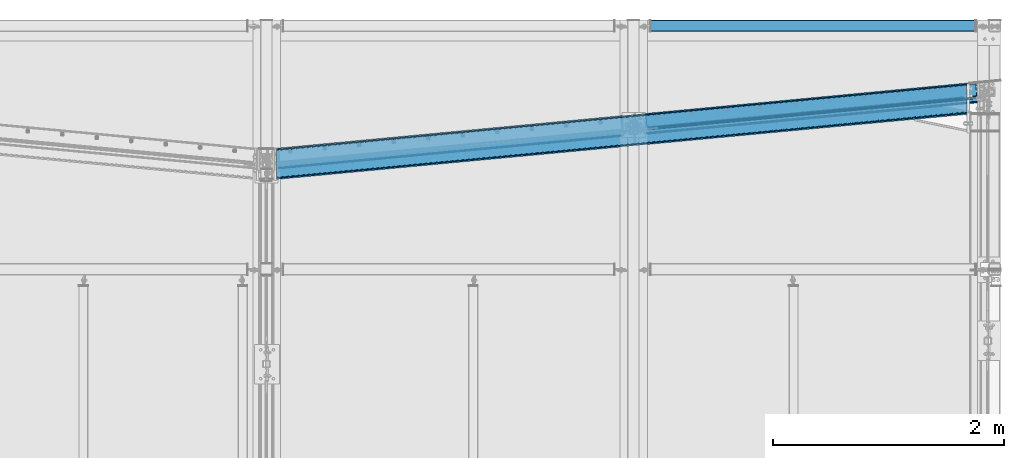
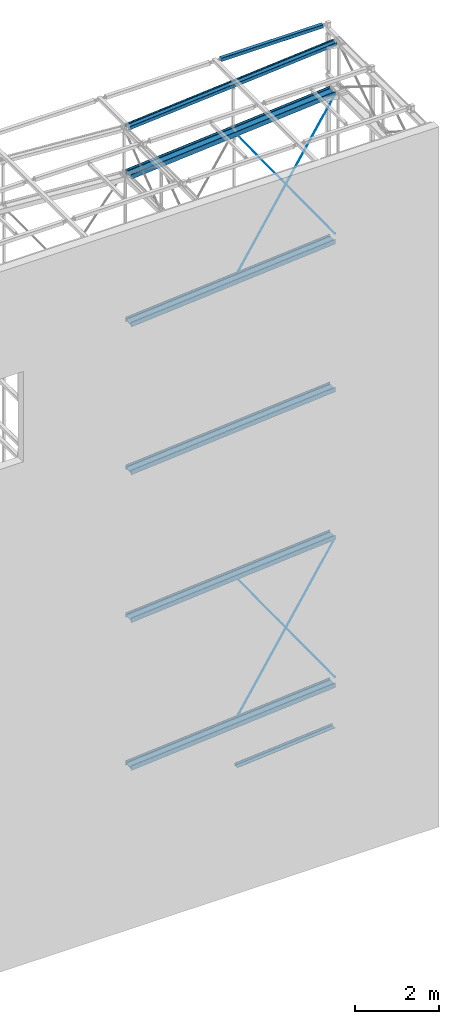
# One storey, part 54 of 271: 8 beams, 4 members, 12 elements without a shape of their own.
"""IFC2X3 building model written with IfcOpenShell, lengths in millimetres."""

from ifc_helpers import new_model, si_unit, frame, origin_with_axes, origin_2d_with_axis, place, context, subcontext, project, spatial, hollow_rectangle, circle, i_section, l_section, extrude, clip, halfspace, material, type_object, element, aggregate, save


model = new_model("IFC2X3")

# Units and contexts
model_context = context("Model", 3, precision=1e-05, world=origin_with_axes())
body_context = subcontext(model_context, "Body", "Model", "MODEL_VIEW")
ifc_project = project(units=[si_unit("LENGTHUNIT", "METRE", prefix="MILLI"), si_unit("AREAUNIT", "SQUARE_METRE"), si_unit("VOLUMEUNIT", "CUBIC_METRE"), si_unit("MASSUNIT", "GRAM", prefix="KILO"), si_unit("TIMEUNIT", "SECOND"), si_unit("PLANEANGLEUNIT", "RADIAN"), si_unit("SOLIDANGLEUNIT", "STERADIAN"), si_unit("THERMODYNAMICTEMPERATUREUNIT", "DEGREE_CELSIUS"), si_unit("LUMINOUSINTENSITYUNIT", "LUMEN")], contexts=[model_context])

# Site, building, storey
site_placement = place(None, origin_with_axes())
site = spatial("IfcSite", under=ifc_project, at=site_placement, Name="Undefined", CompositionType="ELEMENT")
building_placement = place(site_placement, origin_with_axes())
building = spatial("IfcBuilding", under=site, at=building_placement, Name="Undefined", CompositionType="ELEMENT")
storey_placement = place(building_placement, origin_with_axes())
storey = spatial("IfcBuildingStorey", under=building, at=storey_placement, Name="Undefined", CompositionType="ELEMENT", Elevation=0.0)

# Assembly, beam
assembly_1_placement = place(storey_placement, origin_with_axes())
assembly_1 = element("IfcElementAssembly", 1, at=assembly_1_placement, inside=storey, Name="BELKA", AssemblyPlace="NOTDEFINED", PredefinedType="RIGID_FRAME")
ifc_material = material(Name="STEEL/S355JR")
beam_type_1 = type_object("IfcBeamType", Name="L120*80*8", PredefinedType="NOTDEFINED")
beam_1_placement = place(assembly_1_placement, frame((12497.2255377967, 4360.72309871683, 24.8499999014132), z_axis=(0.0941925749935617, -0.995553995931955, 0.0), x_axis=(-0.995553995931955, -0.094192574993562, 0.0)))
beam_1 = element("IfcBeam", 2, at=beam_1_placement, type_object=beam_type_1, material=ifc_material, Name="BELKA", ObjectType="L120*80*8", context=body_context, shape_type="SweptSolid", body=[
    extrude(l_section(Depth=120.0, Width=80.0, Thickness=8.0, FilletRadius=11.0, EdgeRadius=5.5, at=origin_2d_with_axis()), frame((2869.96551881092, 0.0, 4.14918578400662e-13), z_axis=(-1.0, 0.0, 1.38777878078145e-17), x_axis=(0.0, -1.0, 0.0)), (0.0, 0.0, 1.0), 2869.97),
])
aggregate(assembly_1, [beam_1])

assembly_2_placement = place(storey_placement, origin_with_axes())
assembly_2 = element("IfcElementAssembly", 3, at=assembly_2_placement, inside=storey, AssemblyPlace="NOTDEFINED", PredefinedType="RIGID_FRAME")
beam_type_2 = type_object("IfcBeamType", Name="SHS100*3", PredefinedType="NOTDEFINED")
beam_2_placement = place(assembly_2_placement, frame((9528.37568709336, 4909.32498425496, 20154.3499999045), z_axis=(0.0, 1.0, 0.0), x_axis=(1.0, 0.0, 0.0)))
beam_2 = element("IfcBeam", 4, at=beam_2_placement, type_object=beam_type_2, material=ifc_material, Name="RYGIEL ATTYKOWY", ObjectType="SHS100*3", context=body_context, shape_type="Clipping", body=[
    clip(clip(extrude(hollow_rectangle(XDim=100.0, YDim=100.0, WallThickness=3.0, InnerFilletRadius=3.0, OuterFilletRadius=6.0, at=origin_2d_with_axis()), frame((3180.0, 0.0, 0.0), z_axis=(-1.0, 0.0, 1.38777878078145e-17), x_axis=(0.0, -1.0, 0.0)), (0.0, 0.0, 1.0), 3180.0), halfspace(frame((2962.0, 0.0, -15.0), z_axis=(-1.0, 0.0, 1.38777878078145e-17), x_axis=(0.0, 1.0, 0.0)), True)), halfspace(frame((148.000000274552, 0.0, -15.0), z_axis=(1.0, 0.0, 0.0), x_axis=(0.0, -1.0, 0.0)), True)),
])
aggregate(assembly_2, [beam_2])

# Assembly, member
assembly_3_placement = place(storey_placement, origin_with_axes())
assembly_3 = element("IfcElementAssembly", 5, at=assembly_3_placement, inside=storey, AssemblyPlace="NOTDEFINED", PredefinedType="RIGID_FRAME")
member_type = type_object("IfcMemberType", Name="D16", PredefinedType="NOTDEFINED")
member_1_placement = place(assembly_3_placement, frame((12573.751374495, 4292.19355050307, 18644.3499999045), z_axis=(-0.031225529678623, 0.998530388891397, -0.0442947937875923), x_axis=(-0.575326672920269, -0.0541946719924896, -0.816126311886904)))
member_1 = element("IfcMember", 6, at=member_1_placement, type_object=member_type, material=ifc_material, Name="STĘŻENIE", ObjectType="D16", context=body_context, shape_type="Clipping", body=[
    clip(clip(extrude(circle(Radius=8.0, at=origin_2d_with_axis()), frame((5293.29827722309, 2.27373675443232e-13, 0.0), z_axis=(-1.0, 0.0, 1.38777878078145e-17), x_axis=(0.0, -1.0, 0.0)), (0.0, 0.0, 1.0), 5293.3), halfspace(frame((5063.34097846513, -1.39695925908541, -18.1440461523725), z_axis=(-1.0, 0.0, 1.38777878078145e-17), x_axis=(-2.10693542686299e-10, 0.997049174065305, -0.076765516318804)), True)), halfspace(frame((149.375514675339, -1.03455022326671e-10, -4.99999939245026), z_axis=(1.0, 0.0, 0.0), x_axis=(0.0, -1.0, 0.0)), True)),
])
aggregate(assembly_3, [member_1])

assembly_4_placement = place(storey_placement, origin_with_axes())
assembly_4 = element("IfcElementAssembly", 7, at=assembly_4_placement, inside=storey, AssemblyPlace="NOTDEFINED", PredefinedType="RIGID_FRAME")
member_2_placement = place(assembly_4_placement, frame((12573.751374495, 4292.19355050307, 14324.3499999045), z_axis=(-0.0312255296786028, 0.998530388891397, 0.0442947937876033), x_axis=(-0.575326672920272, -0.054194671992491, 0.816126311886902)))
member_2 = element("IfcMember", 8, at=member_2_placement, type_object=member_type, material=ifc_material, Name="STĘŻENIE", ObjectType="D16", context=body_context, shape_type="Clipping", body=[
    clip(clip(extrude(circle(Radius=8.0, at=origin_2d_with_axis()), frame((5293.29827722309, 2.27373675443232e-13, 0.0), z_axis=(-1.0, 0.0, 1.38777878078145e-17), x_axis=(0.0, -1.0, 0.0)), (0.0, 0.0, 1.0), 5293.3), halfspace(frame((5063.33957308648, 1.39581436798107, -18.1291760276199), z_axis=(-1.0, 0.0, 1.38777878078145e-17), x_axis=(2.10691723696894e-10, 0.997049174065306, 0.0767655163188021)), True)), halfspace(frame((149.375514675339, -1.03455022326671e-10, -4.99999939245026), z_axis=(1.0, 0.0, 0.0), x_axis=(0.0, -1.0, 0.0)), True)),
])
aggregate(assembly_4, [member_2])

assembly_5_placement = place(storey_placement, origin_with_axes())
assembly_5 = element("IfcElementAssembly", 9, at=assembly_5_placement, inside=storey, AssemblyPlace="NOTDEFINED", PredefinedType="RIGID_FRAME")
member_3_placement = place(assembly_5_placement, frame((12573.751374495, 4292.19355050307, 5684.34999990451), z_axis=(-0.031225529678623, 0.998530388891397, -0.0442947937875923), x_axis=(-0.575326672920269, -0.0541946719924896, -0.816126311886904)))
member_3 = element("IfcMember", 10, at=member_3_placement, type_object=member_type, material=ifc_material, Name="STĘŻENIE", ObjectType="D16", context=body_context, shape_type="Clipping", body=[
    clip(clip(extrude(circle(Radius=8.0, at=origin_2d_with_axis()), frame((5293.29827722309, 2.27373675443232e-13, 0.0), z_axis=(-1.0, 0.0, 1.38777878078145e-17), x_axis=(0.0, -1.0, 0.0)), (0.0, 0.0, 1.0), 5293.3), halfspace(frame((5063.34097846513, -1.39695925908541, -18.1440461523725), z_axis=(-1.0, 0.0, 1.38777878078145e-17), x_axis=(-2.10693542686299e-10, 0.997049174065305, -0.076765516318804)), True)), halfspace(frame((149.375514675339, -1.03455022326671e-10, -4.99999939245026), z_axis=(1.0, 0.0, 0.0), x_axis=(0.0, -1.0, 0.0)), True)),
])
aggregate(assembly_5, [member_3])

assembly_6_placement = place(storey_placement, origin_with_axes())
assembly_6 = element("IfcElementAssembly", 11, at=assembly_6_placement, inside=storey, AssemblyPlace="NOTDEFINED", PredefinedType="RIGID_FRAME")
member_4_placement = place(assembly_6_placement, frame((12573.751374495, 4292.19355050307, 1364.34999990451), z_axis=(-0.0312255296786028, 0.998530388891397, 0.0442947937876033), x_axis=(-0.575326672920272, -0.054194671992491, 0.816126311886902)))
member_4 = element("IfcMember", 12, at=member_4_placement, type_object=member_type, material=ifc_material, Name="STĘŻENIE", ObjectType="D16", context=body_context, shape_type="Clipping", body=[
    clip(clip(extrude(circle(Radius=8.0, at=origin_2d_with_axis()), frame((5293.29827722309, 2.27373675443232e-13, 0.0), z_axis=(-1.0, 0.0, 1.38777878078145e-17), x_axis=(0.0, -1.0, 0.0)), (0.0, 0.0, 1.0), 5293.3), halfspace(frame((5063.33957308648, 1.39581436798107, -18.1291760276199), z_axis=(-1.0, 0.0, 1.38777878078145e-17), x_axis=(2.10691723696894e-10, 0.997049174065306, 0.0767655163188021)), True)), halfspace(frame((149.375514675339, -1.03455022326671e-10, -4.99999939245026), z_axis=(1.0, 0.0, 0.0), x_axis=(0.0, -1.0, 0.0)), True)),
])
aggregate(assembly_6, [member_4])

# Assembly, beam
assembly_7_placement = place(storey_placement, origin_with_axes())
assembly_7 = element("IfcElementAssembly", 13, at=assembly_7_placement, inside=storey, AssemblyPlace="NOTDEFINED", PredefinedType="RIGID_FRAME")
beam_type_3 = type_object("IfcBeamType", Name="IPE180", PredefinedType="NOTDEFINED")
beam_3_placement = place(assembly_7_placement, frame((12691.4696200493, 4348.52929474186, 20004.3499999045), z_axis=(-0.093922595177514, 0.99557950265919, 7.84095011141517e-15), x_axis=(-0.995579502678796, -0.0939225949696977, 0.0)))
beam_3 = element("IfcBeam", 14, at=beam_3_placement, type_object=beam_type_3, material=ifc_material, Name="RYGIEL", ObjectType="IPE180", context=body_context, shape_type="Clipping", body=[
    clip(clip(extrude(i_section(OverallWidth=91.0, OverallDepth=180.0, WebThickness=5.300000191, FlangeThickness=8.0, FilletRadius=9.0, at=origin_2d_with_axis()), frame((6388.23919450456, 0.0, 0.0), z_axis=(-1.0, 0.0, 1.38777878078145e-17), x_axis=(0.0, -1.0, 0.0)), (0.0, 0.0, 1.0), 6388.24), halfspace(frame((6305.42005893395, 0.0, -90.0), z_axis=(-0.995579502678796, 0.0, -0.0939225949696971), x_axis=(0.0, 1.0, 0.0)), True)), halfspace(frame((189.384138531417, 0.0, -90.0000000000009), z_axis=(0.995579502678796, 0.0, 0.0939225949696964), x_axis=(0.0, -1.0, 0.0)), True)),
])
aggregate(assembly_7, [beam_3])

assembly_8_placement = place(storey_placement, origin_with_axes())
assembly_8 = element("IfcElementAssembly", 15, at=assembly_8_placement, inside=storey, AssemblyPlace="NOTDEFINED", PredefinedType="RIGID_FRAME")
beam_type_4 = type_object("IfcBeamType", Name="IPE270", PredefinedType="NOTDEFINED")
beam_4_placement = place(assembly_8_placement, frame((12695.696136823, 4303.72821712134, 18644.3499999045), z_axis=(-0.093922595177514, 0.99557950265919, 7.84095011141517e-15), x_axis=(-0.995579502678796, -0.0939225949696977, 0.0)))
beam_4 = element("IfcBeam", 16, at=beam_4_placement, type_object=beam_type_4, material=ifc_material, Name="RYGIEL", ObjectType="IPE270", context=body_context, shape_type="Clipping", body=[
    clip(clip(extrude(i_section(OverallWidth=135.0, OverallDepth=270.0, WebThickness=6.599999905, FlangeThickness=10.19999981, FilletRadius=15.0, at=origin_2d_with_axis()), frame((6388.23919450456, 0.0, 0.0), z_axis=(-1.0, 0.0, 1.38777878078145e-17), x_axis=(0.0, -1.0, 0.0)), (0.0, 0.0, 1.0), 6388.24), halfspace(frame((6300.35068336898, -3.63797880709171e-12, -135.0), z_axis=(-0.995579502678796, 0.0, -0.0939225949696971), x_axis=(0.0, 1.0, 0.0)), True)), halfspace(frame((292.292076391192, -3.63797880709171e-12, -135.0), z_axis=(0.995579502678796, 0.0, 0.0939225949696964), x_axis=(0.0, -1.0, 0.0)), True)),
])
aggregate(assembly_8, [beam_4])

assembly_9_placement = place(storey_placement, origin_with_axes())
assembly_9 = element("IfcElementAssembly", 17, at=assembly_9_placement, inside=storey, AssemblyPlace="NOTDEFINED", PredefinedType="RIGID_FRAME")
beam_5_placement = place(assembly_9_placement, frame((12695.696136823, 4303.72821712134, 1364.34999990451), z_axis=(-0.093922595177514, 0.99557950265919, 7.84095011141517e-15), x_axis=(-0.995579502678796, -0.0939225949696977, 0.0)))
beam_5 = element("IfcBeam", 18, at=beam_5_placement, type_object=beam_type_4, material=ifc_material, Name="RYGIEL", ObjectType="IPE270", context=body_context, shape_type="Clipping", body=[
    clip(clip(extrude(i_section(OverallWidth=135.0, OverallDepth=270.0, WebThickness=6.599999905, FlangeThickness=10.19999981, FilletRadius=15.0, at=origin_2d_with_axis()), frame((6388.23919450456, 0.0, 0.0), z_axis=(-1.0, 0.0, 1.38777878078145e-17), x_axis=(0.0, -1.0, 0.0)), (0.0, 0.0, 1.0), 6388.24), halfspace(frame((6300.35068336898, -3.63797880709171e-12, -135.0), z_axis=(-0.995579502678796, 0.0, -0.0939225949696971), x_axis=(0.0, 1.0, 0.0)), True)), halfspace(frame((292.292076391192, -3.63797880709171e-12, -135.0), z_axis=(0.995579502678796, 0.0, 0.0939225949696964), x_axis=(0.0, -1.0, 0.0)), True)),
])
aggregate(assembly_9, [beam_5])

assembly_10_placement = place(storey_placement, origin_with_axes())
assembly_10 = element("IfcElementAssembly", 19, at=assembly_10_placement, inside=storey, AssemblyPlace="NOTDEFINED", PredefinedType="RIGID_FRAME")
beam_6_placement = place(assembly_10_placement, frame((12695.696136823, 4303.72821712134, 5684.34999990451), z_axis=(-0.093922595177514, 0.99557950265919, 7.84095011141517e-15), x_axis=(-0.995579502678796, -0.0939225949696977, 0.0)))
beam_6 = element("IfcBeam", 20, at=beam_6_placement, type_object=beam_type_4, material=ifc_material, Name="RYGIEL", ObjectType="IPE270", context=body_context, shape_type="Clipping", body=[
    clip(clip(extrude(i_section(OverallWidth=135.0, OverallDepth=270.0, WebThickness=6.599999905, FlangeThickness=10.19999981, FilletRadius=15.0, at=origin_2d_with_axis()), frame((6388.23919450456, 0.0, 0.0), z_axis=(-1.0, 0.0, 1.38777878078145e-17), x_axis=(0.0, -1.0, 0.0)), (0.0, 0.0, 1.0), 6388.24), halfspace(frame((6300.35068336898, -3.63797880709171e-12, -135.0), z_axis=(-0.995579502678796, 0.0, -0.0939225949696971), x_axis=(0.0, 1.0, 0.0)), True)), halfspace(frame((292.292076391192, -3.63797880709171e-12, -135.0), z_axis=(0.995579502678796, 0.0, 0.0939225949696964), x_axis=(0.0, -1.0, 0.0)), True)),
])
aggregate(assembly_10, [beam_6])

assembly_11_placement = place(storey_placement, origin_with_axes())
assembly_11 = element("IfcElementAssembly", 21, at=assembly_11_placement, inside=storey, AssemblyPlace="NOTDEFINED", PredefinedType="RIGID_FRAME")
beam_7_placement = place(assembly_11_placement, frame((12695.696136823, 4303.72821712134, 10004.3499999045), z_axis=(-0.093922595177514, 0.99557950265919, 7.84095011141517e-15), x_axis=(-0.995579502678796, -0.0939225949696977, 0.0)))
beam_7 = element("IfcBeam", 22, at=beam_7_placement, type_object=beam_type_4, material=ifc_material, Name="RYGIEL", ObjectType="IPE270", context=body_context, shape_type="Clipping", body=[
    clip(clip(extrude(i_section(OverallWidth=135.0, OverallDepth=270.0, WebThickness=6.599999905, FlangeThickness=10.19999981, FilletRadius=15.0, at=origin_2d_with_axis()), frame((6388.23919450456, 0.0, 0.0), z_axis=(-1.0, 0.0, 1.38777878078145e-17), x_axis=(0.0, -1.0, 0.0)), (0.0, 0.0, 1.0), 6388.24), halfspace(frame((6300.35068336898, -3.63797880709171e-12, -135.0), z_axis=(-0.995579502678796, 0.0, -0.0939225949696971), x_axis=(0.0, 1.0, 0.0)), True)), halfspace(frame((292.292076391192, -3.63797880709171e-12, -135.0), z_axis=(0.995579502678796, 0.0, 0.0939225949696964), x_axis=(0.0, -1.0, 0.0)), True)),
])
aggregate(assembly_11, [beam_7])

assembly_12_placement = place(storey_placement, origin_with_axes())
assembly_12 = element("IfcElementAssembly", 23, at=assembly_12_placement, inside=storey, AssemblyPlace="NOTDEFINED", PredefinedType="RIGID_FRAME")
beam_8_placement = place(assembly_12_placement, frame((12695.696136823, 4303.72821712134, 14324.3499999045), z_axis=(-0.093922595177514, 0.99557950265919, 7.84095011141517e-15), x_axis=(-0.995579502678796, -0.0939225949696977, 0.0)))
beam_8 = element("IfcBeam", 24, at=beam_8_placement, type_object=beam_type_4, material=ifc_material, Name="RYGIEL", ObjectType="IPE270", context=body_context, shape_type="Clipping", body=[
    clip(clip(extrude(i_section(OverallWidth=135.0, OverallDepth=270.0, WebThickness=6.599999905, FlangeThickness=10.19999981, FilletRadius=15.0, at=origin_2d_with_axis()), frame((6388.23919450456, 0.0, 0.0), z_axis=(-1.0, 0.0, 1.38777878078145e-17), x_axis=(0.0, -1.0, 0.0)), (0.0, 0.0, 1.0), 6388.24), halfspace(frame((6300.35068336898, -3.63797880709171e-12, -135.0), z_axis=(-0.995579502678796, 0.0, -0.0939225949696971), x_axis=(0.0, 1.0, 0.0)), True)), halfspace(frame((292.292076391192, -3.63797880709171e-12, -135.0), z_axis=(0.995579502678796, 0.0, 0.0939225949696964), x_axis=(0.0, -1.0, 0.0)), True)),
])
aggregate(assembly_12, [beam_8])

save(model, "model.ifc")
